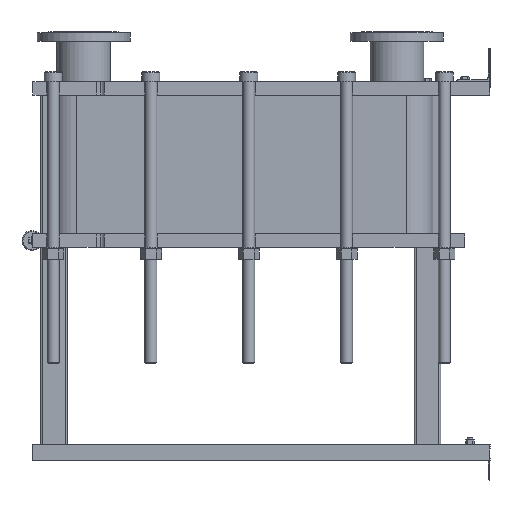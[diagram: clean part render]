
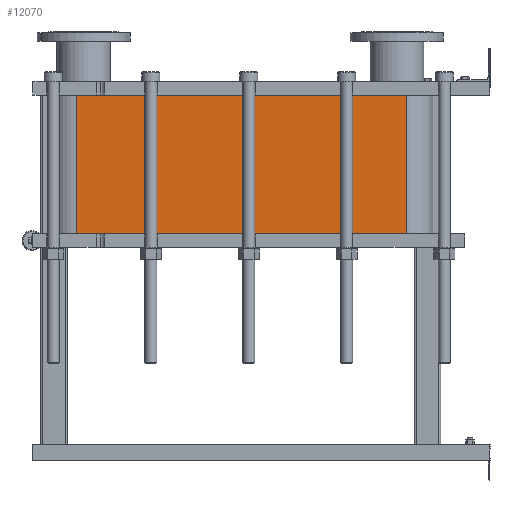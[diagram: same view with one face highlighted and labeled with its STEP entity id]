
A CAD part, left-side view. The second image highlights one B-rep face of the part: STEP entity #12070.
In plain terms, the highlighted planar face has unit normal (-1, 0, 0).
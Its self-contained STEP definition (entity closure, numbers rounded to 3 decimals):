
#1064=LINE('',#21140,#2164);
#1065=LINE('',#21144,#2165);
#1066=LINE('',#21146,#2166);
#1067=LINE('',#21147,#2167);
#2164=VECTOR('',#15790,10.);
#2165=VECTOR('',#15795,10.);
#2166=VECTOR('',#15796,10.);
#2167=VECTOR('',#15797,10.);
#3304=FACE_OUTER_BOUND('',#4091,.T.);
#4091=EDGE_LOOP('',(#9793,#9794,#9795,#9796));
#5677=VERTEX_POINT('',#21137);
#5678=VERTEX_POINT('',#21139);
#5679=VERTEX_POINT('',#21143);
#5680=VERTEX_POINT('',#21145);
#7118=EDGE_CURVE('',#5678,#5677,#1064,.T.);
#7120=EDGE_CURVE('',#5677,#5679,#1065,.T.);
#7121=EDGE_CURVE('',#5680,#5679,#1066,.T.);
#7122=EDGE_CURVE('',#5680,#5678,#1067,.T.);
#9793=ORIENTED_EDGE('',*,*,#7120,.T.);
#9794=ORIENTED_EDGE('',*,*,#7121,.F.);
#9795=ORIENTED_EDGE('',*,*,#7122,.T.);
#9796=ORIENTED_EDGE('',*,*,#7118,.T.);
#11441=PLANE('',#13191);
#12070=ADVANCED_FACE('',(#3304),#11441,.T.);
#13191=AXIS2_PLACEMENT_3D('',#21142,#15793,#15794);
#15790=DIRECTION('',(0.,0.,-1.));
#15793=DIRECTION('center_axis',(-1.,0.,0.));
#15794=DIRECTION('ref_axis',(0.,1.,0.));
#15795=DIRECTION('',(0.,-1.,0.));
#15796=DIRECTION('',(0.,0.,-1.));
#15797=DIRECTION('',(0.,1.,0.));
#21137=CARTESIAN_POINT('',(-248.152,1243.818,-417.45));
#21139=CARTESIAN_POINT('',(-248.152,1243.818,0.));
#21140=CARTESIAN_POINT('',(-248.152,1243.818,0.));
#21142=CARTESIAN_POINT('Origin',(-248.152,251.818,0.));
#21143=CARTESIAN_POINT('',(-248.152,251.818,-417.45));
#21144=CARTESIAN_POINT('',(-248.152,499.818,-417.45));
#21145=CARTESIAN_POINT('',(-248.152,251.818,0.));
#21146=CARTESIAN_POINT('',(-248.152,251.818,0.));
#21147=CARTESIAN_POINT('',(-248.152,251.818,0.));
